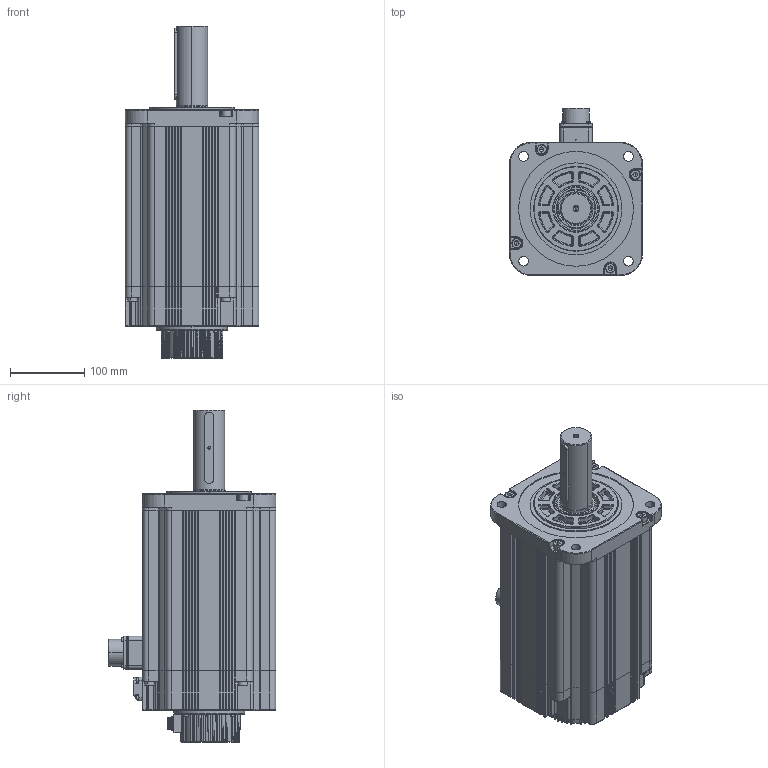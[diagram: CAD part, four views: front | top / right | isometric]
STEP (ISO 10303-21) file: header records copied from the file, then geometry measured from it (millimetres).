
FILE_DESCRIPTION (( 'STEP AP214' ), '1' );
FILE_NAME ('153.5长铁芯 带刹车 B出轴.STEP', '2021-10-26T06:12:05', ( '' ), ( '' ), 'SwSTEP 2.0', 'SolidWorks 2014', '' );
FILE_SCHEMA (( 'AUTOMOTIVE_DESIGN' ));
Length unit declared in the file: millimetre
Products named in the file (20): 180粣-47沺郋; SC蚐猾 D00B999YF8-TC 44-62-10; 埴芛囀鞠褒 ISO 4762 M8 x 30 --- 30N; 价陬揤盄裔200912; 埴芛囀鞠褒 ISO 4762 M3 x 30 --- 18N; す瑩^180#陔萇儂-拸价陬 201021; 坋趼攫芛蹟佪 M2X8-8  H type-N; SC瑤諾脣芛 24-11-9pin; 埴芛囀鞠褒 ISO 4762 M3 x 10 --- 10N; 埴芛囀鞠褒 ISO 4762 M3 x 8 --- 8N; 綴傷裔-111; 153.5长铁芯 带刹车 B出轴; SC180#綴傷裔蹟隊熬傻-201020; SC180瑤脣釱1015; SC晤鎢ん欶200908_10郋; 埴芛囀鞠褒 ISO 4762 M6 x 20 --- 20N; 180儂褲1009; SCSC瑤諾脣芛 16M-9H; SC180ヶ傷裔1009; 180#陔隅赽201019
Assembly tree (40 placements, depth 3):
  153.5长铁芯 带刹车 B出轴
    180#陔隅赽201019
      SC180ヶ傷裔1009
      SC180瑤脣釱1015
      180儂褲1009
    SC晤鎢ん欶200908_10郋
    SCSC瑤諾脣芛 16M-9H
    SC蚐猾 D00B999YF8-TC 44-62-10
    坋趼攫芛蹟佪 M2X8-8  H type-N  x4
    埴芛囀鞠褒 ISO 4762 M3 x 10 --- 10N  x4
    埴芛囀鞠褒 ISO 4762 M8 x 30 --- 30N  x8
    埴芛囀鞠褒 ISO 4762 M3 x 30 --- 18N  x4
    180粣-47沺郋
    す瑩^180#陔萇儂-拸价陬 201021
    SC瑤諾脣芛 24-11-9pin
    綴傷裔-111
      SC180#綴傷裔蹟隊熬傻-201020
    价陬揤盄裔200912
    埴芛囀鞠褒 ISO 4762 M3 x 8 --- 8N  x4
    埴芛囀鞠褒 ISO 4762 M6 x 20 --- 20N  x3
Bounding box: 180 x 226.3 x 448 mm (x, y, z)
Volume: 2680450.5 mm3; surface area: 696204.6 mm2
Topology: 39 solids, 39 shells, 3690 faces, 8982 edges, 5243 vertices
Faces by surface type: cylinder 1257, plane 1002, torus 489, bspline 473, cone 287, sphere 182
Entity records: 147310 total; most frequent: CARTESIAN_POINT 43960, DIRECTION 14949, ORIENTED_EDGE 14942, EDGE_CURVE 7471, AXIS2_PLACEMENT_3D 6123, VERTEX_POINT 4485, EDGE_LOOP 3356, CIRCLE 3344
